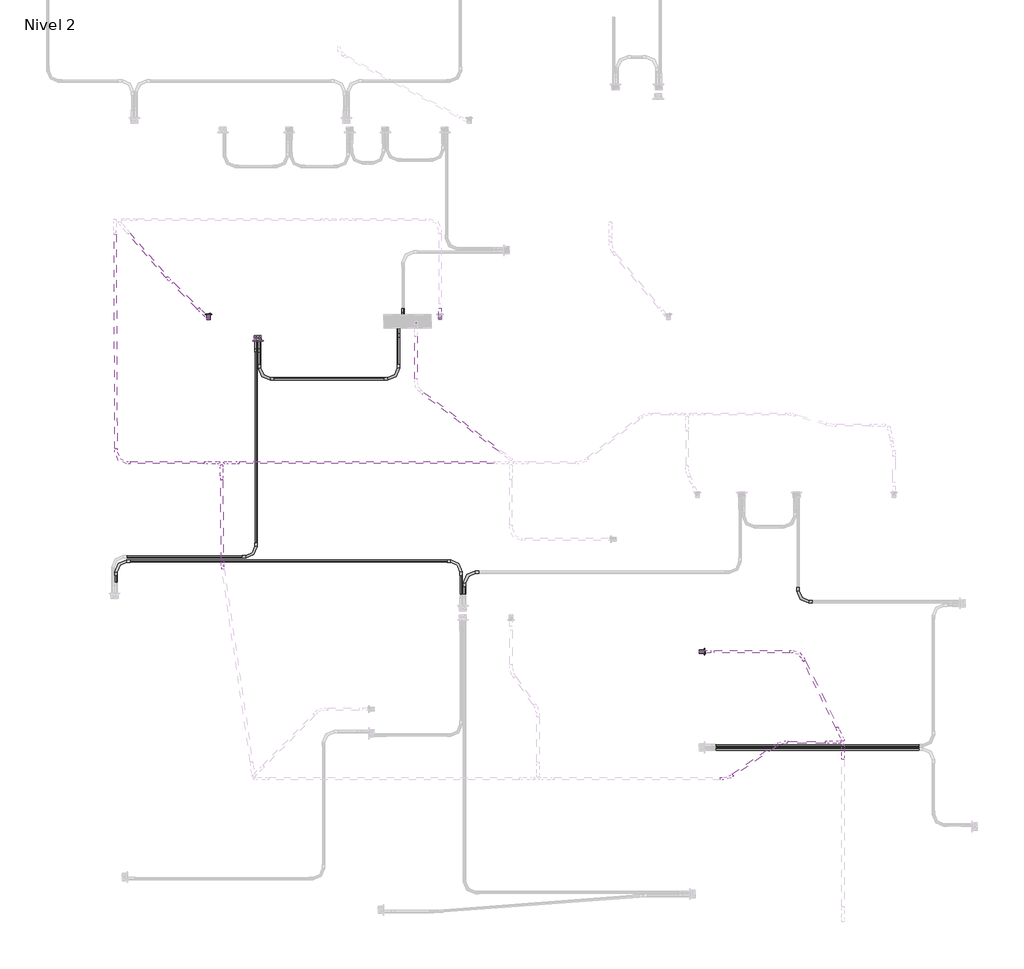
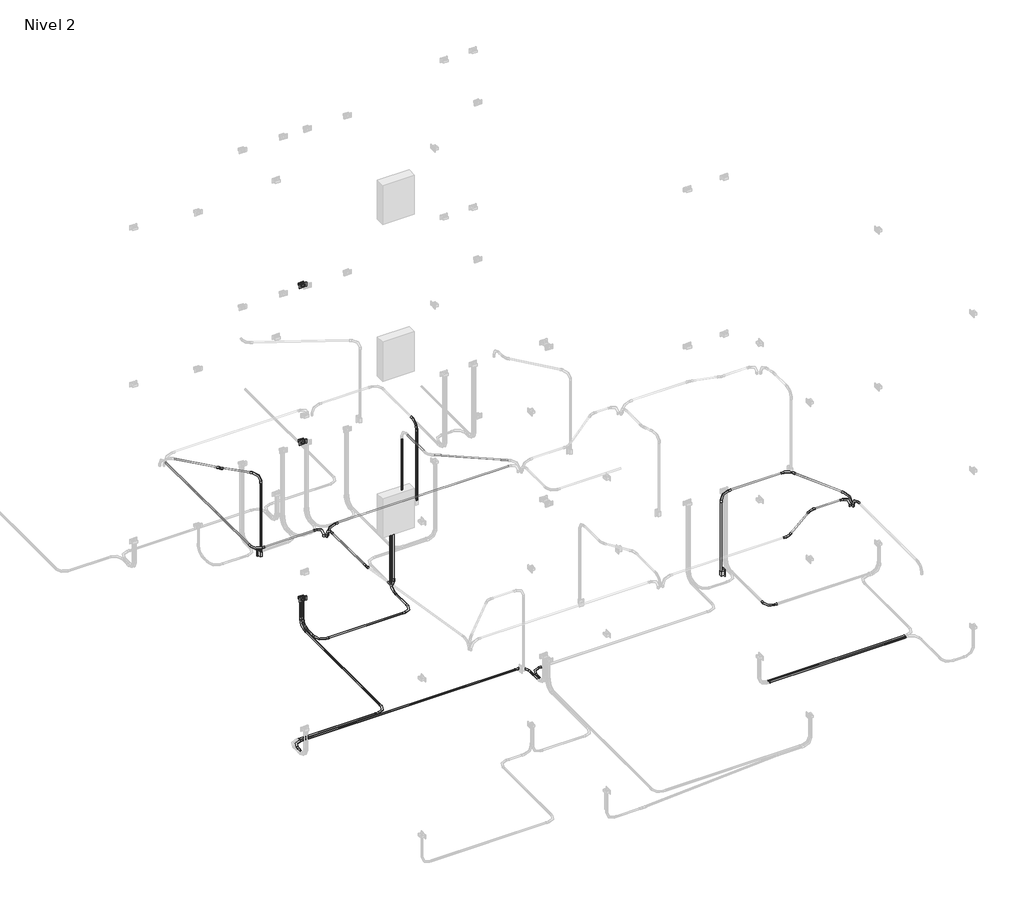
# One storey, part 3 of 10: 31 cable carrier segments, 26 cable carrier fittings, 3 proxies, 2 switching devices.
"""IFC4 building model written with IfcOpenShell, lengths in millimetres."""

from ifc_helpers import new_model, si_unit, point, frame, frame_2d, origin, place, context, project, spatial, circle_curve, trimmed, segment, composite_curve, outline, extrude, transform, mapped, element, save
from components import gfci_180f1b41, m_codo_de_tubo_extremo_liso_pvc_9da73e12, m_codo_de_tubo_extremo_liso_pvc_102f0f41, m_codo_de_tubo_extremo_liso_pvc_6d9fa8a7, m_codo_de_tubo_extremo_liso_pvc_f58f4af8, m_codo_de_tubo_extremo_liso_pvc_01dea03c, m_codo_de_tubo_extremo_liso_pvc_a375e3ab, m_codo_de_tubo_extremo_liso_pvc_6ad27ddb, switching_device_22fed34b

model = new_model("IFC4")

# Units and contexts
model_context = context("Model", 3, world=origin())
ifc_project = project(units=[si_unit("LENGTHUNIT", "METRE", prefix="MILLI")], contexts=[model_context])

# Site, building, storey
site = spatial("IfcSite", under=ifc_project)
building = spatial("IfcBuilding", under=site)
storey = spatial("IfcBuildingStorey", under=building, Name="Nivel 2", Elevation=2800.0)

# Proxies
placement = place(None, origin())
gfci_shape = gfci_180f1b41(model_context)
element("IfcBuildingElementProxy", 1, Name="Tomacorriente doble 220V : GFCI", ObjectType="Tomacorriente doble 220V : GFCI", at=placement, inside=storey, context=model_context, shape_type="MappedRepresentation", body=[
    mapped(gfci_shape, transform((1539.267068, 6735.0, 3200.0), x_axis=(0.0, 0.0, 1.0), y_axis=(-1.0, 0.0, 0.0), z_axis=(0.0, -1.0, 0.0))),
])
element("IfcBuildingElementProxy", 2, Name="Tomacorriente doble 220V : GFCI", ObjectType="Tomacorriente doble 220V : GFCI", at=placement, inside=storey, context=model_context, shape_type="MappedRepresentation", body=[
    mapped(gfci_shape, transform((1539.267068, 6735.0, 5850.0), x_axis=(0.0, 0.0, 1.0), y_axis=(-1.0, 0.0, 0.0), z_axis=(0.0, -1.0, 0.0))),
])
element("IfcBuildingElementProxy", 3, Name="Tomacorriente doble 220V : GFCI", ObjectType="Tomacorriente doble 220V : GFCI", at=placement, inside=storey, context=model_context, shape_type="MappedRepresentation", body=[
    mapped(gfci_shape, transform((1539.267068, 6735.0, 8500.0), x_axis=(0.0, 0.0, 1.0), y_axis=(-1.0, 0.0, 0.0), z_axis=(0.0, -1.0, 0.0))),
])

# Cable carrier fittings
m_codo_de_tubo_extremo_liso_pvc_shape = m_codo_de_tubo_extremo_liso_pvc_9da73e12(model_context)
element("IfcCableCarrierFitting", 4, ObjectType="M_Codo de tubo - Extremo liso - PVC : CODO POTENCIA", at=placement, inside=storey, context=model_context, shape_type="MappedRepresentation", body=[
    mapped(m_codo_de_tubo_extremo_liso_pvc_shape, transform((7343.1290455, 3929.8436623, 2730.0), x_axis=(0.0, -1.0, 0.0), y_axis=(1.0, 0.0, 0.0), z_axis=(0.0, 0.0, 1.0))),
])
element("IfcCableCarrierFitting", 5, ObjectType="M_Codo de tubo - Extremo liso - PVC : CODO POTENCIA", at=placement, inside=storey, context=model_context, shape_type="MappedRepresentation", body=[
    mapped(m_codo_de_tubo_extremo_liso_pvc_shape, transform((1557.2988878, 6764.6371118, 2730.0), x_axis=(0.0, 0.0, -1.0), y_axis=(0.0, -1.0, 0.0), z_axis=(-1.0, 0.0, 0.0))),
])
element("IfcCableCarrierFitting", 6, ObjectType="M_Codo de tubo - Extremo liso - PVC : CODO POTENCIA", at=placement, inside=storey, context=model_context, shape_type="MappedRepresentation", body=[
    mapped(m_codo_de_tubo_extremo_liso_pvc_shape, transform((1521.2352482, 6764.6371118, 2730.0), x_axis=(0.0, 0.0, -1.0), y_axis=(0.0, -1.0, 0.0), z_axis=(-1.0, 0.0, 0.0))),
])
element("IfcCableCarrierFitting", 7, ObjectType="M_Codo de tubo - Extremo liso - PVC : CODO POTENCIA", at=placement, inside=storey, context=model_context, shape_type="MappedRepresentation", body=[
    mapped(m_codo_de_tubo_extremo_liso_pvc_shape, transform((1521.2352482, 4410.0, 2730.0), x_axis=(1.0, 0.0, 0.0), y_axis=(0.0, 1.0, 0.0), z_axis=(0.0, 0.0, 1.0))),
])
element("IfcCableCarrierFitting", 8, ObjectType="M_Codo de tubo - Extremo liso - PVC : CODO POTENCIA", at=placement, inside=storey, context=model_context, shape_type="MappedRepresentation", body=[
    mapped(m_codo_de_tubo_extremo_liso_pvc_shape, transform((1557.2988878, 6324.6371118, 2730.0), x_axis=(0.0, -1.0, 0.0), y_axis=(1.0, 0.0, 0.0), z_axis=(0.0, 0.0, 1.0))),
])
element("IfcCableCarrierFitting", 9, ObjectType="M_Codo de tubo - Extremo liso - PVC : CODO POTENCIA", at=placement, inside=storey, context=model_context, shape_type="MappedRepresentation", body=[
    mapped(m_codo_de_tubo_extremo_liso_pvc_shape, transform((3049.7988878, 6324.6371118, 2730.0), x_axis=(1.0, 0.0, 0.0), y_axis=(0.0, 1.0, 0.0), z_axis=(0.0, 0.0, 1.0))),
])
element("IfcCableCarrierFitting", 10, ObjectType="M_Codo de tubo - Extremo liso - PVC : CODO POTENCIA", at=placement, inside=storey, context=model_context, shape_type="MappedRepresentation", body=[
    mapped(m_codo_de_tubo_extremo_liso_pvc_shape, transform((3723.3033726, 4365.3628882, 2730.0), x_axis=(0.0, 1.0, 0.0), y_axis=(-1.0, 0.0, 0.0), z_axis=(0.0, 0.0, 1.0))),
])
element("IfcCableCarrierFitting", 11, ObjectType="M_Codo de tubo - Extremo liso - PVC : CODO POTENCIA", at=placement, inside=storey, context=model_context, shape_type="MappedRepresentation", body=[
    mapped(m_codo_de_tubo_extremo_liso_pvc_shape, transform((17.0761068, 4365.3628882, 2730.0), x_axis=(-1.0, 0.0, 0.0), y_axis=(0.0, -1.0, 0.0), z_axis=(0.0, 0.0, 1.0))),
])
element("IfcCableCarrierFitting", 12, ObjectType="M_Codo de tubo - Extremo liso - PVC : CODO POTENCIA", at=placement, inside=storey, context=model_context, shape_type="MappedRepresentation", body=[
    mapped(m_codo_de_tubo_extremo_liso_pvc_shape, transform((3759.3670122, 4245.3628882, 2730.0), x_axis=(-1.0, 0.0, 0.0), y_axis=(0.0, -1.0, 0.0), z_axis=(0.0, 0.0, 1.0))),
])
element("IfcCableCarrierFitting", 13, ObjectType="M_Codo de tubo - Extremo liso - PVC : CODO POTENCIA", at=placement, inside=storey, context=model_context, shape_type="MappedRepresentation", body=[
    mapped(m_codo_de_tubo_extremo_liso_pvc_shape, transform((3099.8874089, 6924.6371118, 2730.0), x_axis=(0.0, -1.0, 0.0), y_axis=(0.0, 0.0, 1.0), z_axis=(-1.0, 0.0, 0.0))),
])
element("IfcCableCarrierFitting", 14, ObjectType="M_Codo de tubo - Extremo liso - PVC : CODO POTENCIA", at=placement, inside=storey, context=model_context, shape_type="MappedRepresentation", body=[
    mapped(m_codo_de_tubo_extremo_liso_pvc_shape, transform((3049.7988878, 6924.6371118, 2730.0), x_axis=(0.0, 1.0, 0.0), y_axis=(0.0, 0.0, 1.0), z_axis=(1.0, 0.0, 0.0))),
])
element("IfcCableCarrierFitting", 15, ObjectType="M_Codo de tubo - Extremo liso - PVC : CODO ILUMINACION", at=placement, inside=storey, context=model_context, shape_type="MappedRepresentation", body=[
    mapped(m_codo_de_tubo_extremo_liso_pvc_shape, transform((1185.6193562, 5423.1835713, 5350.0), x_axis=(-1.0, 0.0, 0.0), y_axis=(0.0, 0.0, -1.0), z_axis=(0.0, -1.0, 0.0))),
])
element("IfcCableCarrierFitting", 16, ObjectType="M_Codo de tubo - Extremo liso - PVC : CODO ILUMINACION", at=placement, inside=storey, context=model_context, shape_type="MappedRepresentation", body=[
    mapped(m_codo_de_tubo_extremo_liso_pvc_shape, transform((7824.8834206, 2385.5078358, 5350.0), x_axis=(0.0, 1.0, 0.0), y_axis=(0.0, 0.0, -1.0), z_axis=(-1.0, 0.0, 0.0))),
])
element("IfcCableCarrierFitting", 17, ObjectType="M_Codo de tubo - Extremo liso - PVC : CODO ILUMINACION", at=placement, inside=storey, context=model_context, shape_type="MappedRepresentation", body=[
    mapped(m_codo_de_tubo_extremo_liso_pvc_shape, transform((7824.7093209, 2441.4349493, 5350.0), x_axis=(0.4383711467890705, -0.8987940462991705, 0.0), y_axis=(0.0, 0.0, -1.0000000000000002), z_axis=(0.8987940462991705, 0.4383711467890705, 0.0))),
])
element("IfcCableCarrierFitting", 18, ObjectType="M_Codo de tubo - Extremo liso - PVC : CODO ILUMINACION", at=placement, inside=storey, context=model_context, shape_type="MappedRepresentation", body=[
    mapped(m_codo_de_tubo_extremo_liso_pvc_shape, transform((6291.8611243, 3390.4963891, 5350.0), x_axis=(0.0, 0.0, 1.0), y_axis=(1.0, 0.0, 0.0), z_axis=(0.0, 1.0, 0.0))),
])
element("IfcCableCarrierFitting", 19, ObjectType="M_Codo de tubo - Extremo liso - PVC : CODO ILUMINACION", at=placement, inside=storey, context=model_context, shape_type="MappedRepresentation", body=[
    mapped(m_codo_de_tubo_extremo_liso_pvc_shape, transform((3497.5007971, 6971.8611243, 5350.0), x_axis=(0.0, 0.0, 1.0), y_axis=(0.0, 1.0, 0.0), z_axis=(-1.0, 0.0, 0.0))),
])
element("IfcCableCarrierFitting", 20, ObjectType="M_Codo de tubo - Extremo liso - PVC : CODO ILUMINACION", at=placement, inside=storey, context=model_context, shape_type="MappedRepresentation", body=[
    mapped(m_codo_de_tubo_extremo_liso_pvc_shape, transform((1007.1275387, 6971.8611243, 5350.0), x_axis=(0.0, 0.0, 1.0), y_axis=(-0.7107309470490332, 0.7034639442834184, 0.0), z_axis=(-0.7034639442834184, -0.7107309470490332, 0.0))),
])
element("IfcCableCarrierFitting", 21, ObjectType="M_Codo de tubo - Extremo liso - PVC : CODO ILUMINACION", at=placement, inside=storey, context=model_context, shape_type="MappedRepresentation", body=[
    mapped(m_codo_de_tubo_extremo_liso_pvc_shape, transform((1149.6596259, 5391.3585606, 5350.0), x_axis=(-0.007684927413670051, 0.999970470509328, 0.0), y_axis=(0.0, 0.0, -1.0000000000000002), z_axis=(-0.999970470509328, -0.007684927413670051, 0.0))),
])
m_codo_de_tubo_extremo_liso_pvc_2_shape = m_codo_de_tubo_extremo_liso_pvc_102f0f41(model_context)
element("IfcCableCarrierFitting", 22, ObjectType="M_Codo de tubo - Extremo liso - PVC : CODO ILUMINACION", at=placement, inside=storey, context=model_context, shape_type="MappedRepresentation", body=[
    mapped(m_codo_de_tubo_extremo_liso_pvc_2_shape, transform((1117.5890953, 5423.1835713, 5350.0), x_axis=(1.0, 0.0, 0.0), y_axis=(0.0, 0.0, 1.0), z_axis=(0.0, -1.0, 0.0))),
])
element("IfcCableCarrierFitting", 23, ObjectType="M_Codo de tubo - Extremo liso - PVC : CODO ILUMINACION", at=placement, inside=storey, context=model_context, shape_type="MappedRepresentation", body=[
    mapped(m_codo_de_tubo_extremo_liso_pvc_2_shape, transform((7788.6622212, 2417.3168974, 5350.0), x_axis=(1.0, 0.0, 0.0), y_axis=(0.0, 0.0, 1.0), z_axis=(0.0, -1.0, 0.0))),
])
m_codo_de_tubo_extremo_liso_pvc_3_shape = m_codo_de_tubo_extremo_liso_pvc_6d9fa8a7(model_context)
element("IfcCableCarrierFitting", 24, ObjectType="M_Codo de tubo - Extremo liso - PVC : CODO ILUMINACION", at=placement, inside=storey, context=model_context, shape_type="MappedRepresentation", body=[
    mapped(m_codo_de_tubo_extremo_liso_pvc_3_shape, transform((6581.2526659, 2026.1291573, 5350.0), x_axis=(1.0, 0.0, 0.0), y_axis=(0.0, 1.0, 0.0), z_axis=(0.0, 0.0, 1.0))),
])
element("IfcCableCarrierFitting", 25, ObjectType="M_Codo de tubo - Extremo liso - PVC : CODO ILUMINACION", at=placement, inside=storey, context=model_context, shape_type="MappedRepresentation", body=[
    mapped(m_codo_de_tubo_extremo_liso_pvc_3_shape, transform((7156.2622212, 2417.3168974, 5350.0), x_axis=(-1.0, 0.0, 0.0), y_axis=(0.0, -1.0, 0.0), z_axis=(0.0, 0.0, 1.0))),
])
m_codo_de_tubo_extremo_liso_pvc_4_shape = m_codo_de_tubo_extremo_liso_pvc_f58f4af8(model_context)
element("IfcCableCarrierFitting", 26, ObjectType="M_Codo de tubo - Extremo liso - PVC : CODO ILUMINACION", at=placement, inside=storey, context=model_context, shape_type="MappedRepresentation", body=[
    mapped(m_codo_de_tubo_extremo_liso_pvc_4_shape, transform((7361.8211281, 3390.4963891, 5350.0), x_axis=(-0.4383711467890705, 0.8987940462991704, 0.0), y_axis=(-0.8987940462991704, -0.4383711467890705, 0.0), z_axis=(0.0, 0.0, 1.0))),
])
m_codo_de_tubo_extremo_liso_pvc_5_shape = m_codo_de_tubo_extremo_liso_pvc_01dea03c(model_context)
element("IfcCableCarrierFitting", 27, ObjectType="M_Codo de tubo - Extremo liso - PVC : CODO ILUMINACION", at=placement, inside=storey, context=model_context, shape_type="MappedRepresentation", body=[
    mapped(m_codo_de_tubo_extremo_liso_pvc_5_shape, transform((590.9641731, 7383.7693491, 5350.0), x_axis=(0.656059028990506, -0.7547095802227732, 0.0), y_axis=(0.7547095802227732, 0.656059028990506, 0.0), z_axis=(0.0, 0.0, 1.0))),
])
m_codo_de_tubo_extremo_liso_pvc_6_shape = m_codo_de_tubo_extremo_liso_pvc_a375e3ab(model_context)
element("IfcCableCarrierFitting", 28, ObjectType="M_Codo de tubo - Extremo liso - PVC : CODO ILUMINACION", at=placement, inside=storey, context=model_context, shape_type="MappedRepresentation", body=[
    mapped(m_codo_de_tubo_extremo_liso_pvc_6_shape, transform((16.4105658, 5423.1835713, 5350.0), x_axis=(0.004558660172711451, -0.9999896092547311, 0.0), y_axis=(0.9999896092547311, 0.004558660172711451, 0.0), z_axis=(0.0, 0.0, 1.0))),
])
m_codo_de_tubo_extremo_liso_pvc_7_shape = m_codo_de_tubo_extremo_liso_pvc_6ad27ddb(model_context)
element("IfcCableCarrierFitting", 29, ObjectType="M_Codo de tubo - Extremo liso - PVC : CODO ILUMINACION", at=placement, inside=storey, context=model_context, shape_type="MappedRepresentation", body=[
    mapped(m_codo_de_tubo_extremo_liso_pvc_7_shape, transform((1157.8468904, 4326.0234866, 5350.0), x_axis=(0.007684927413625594, -0.9999704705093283, 0.0), y_axis=(0.9999704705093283, 0.007684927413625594, 0.0), z_axis=(0.0, 0.0, 1.0))),
])

# Cable carrier segments
element("IfcCableCarrierSegment", 30, ObjectType="PVC-SEL, POTENCIA", at=placement, inside=storey, context=model_context, shape_type="SweptSolid", body=[
    extrude(outline(composite_curve([segment(trimmed(circle_curve(frame_2d((2344.5282763, 2730.0)), 11.71), [point((2332.8182763, 2730.0))], [point((2344.5282763, 2741.71))], False, "CARTESIAN"), True, "CONTINUOUS"), segment(trimmed(circle_curve(frame_2d((2344.5282763, 2730.0)), 11.71), [point((2344.5282763, 2741.71))], [point((2356.2382763, 2730.0))], False, "CARTESIAN"), True, "CONTINUOUS"), segment(trimmed(circle_curve(frame_2d((2344.5282763, 2730.0)), 11.71), [point((2356.2382763, 2730.0))], [point((2344.5282763, 2718.29))], False, "CARTESIAN"), True, "CONTINUOUS"), segment(trimmed(circle_curve(frame_2d((2344.5282763, 2730.0)), 11.71), [point((2344.5282763, 2718.29))], [point((2332.8182763, 2730.0))], False, "CARTESIAN"), True, "CONTINUOUS")], self_intersect=False)), frame((6457.7628882, 0.0, 0.0), z_axis=(1.0, 0.0, 0.0), x_axis=(0.0, 1.0, 0.0)), (0.0, 0.0, 1.0), 2184.4742236),
])
element("IfcCableCarrierSegment", 31, ObjectType="PVC-SEL, POTENCIA", at=placement, inside=storey, context=model_context, shape_type="SweptSolid", body=[
    extrude(outline(composite_curve([segment(trimmed(circle_curve(frame_2d((2380.5919159, 2730.0)), 11.71), [point((2392.3019159, 2730.0))], [point((2380.5919159, 2718.29))], False, "CARTESIAN"), True, "CONTINUOUS"), segment(trimmed(circle_curve(frame_2d((2380.5919159, 2730.0)), 11.71), [point((2380.5919159, 2718.29))], [point((2368.8819159, 2730.0))], False, "CARTESIAN"), True, "CONTINUOUS"), segment(trimmed(circle_curve(frame_2d((2380.5919159, 2730.0)), 11.71), [point((2368.8819159, 2730.0))], [point((2380.5919159, 2741.71))], False, "CARTESIAN"), True, "CONTINUOUS"), segment(trimmed(circle_curve(frame_2d((2380.5919159, 2730.0)), 11.71), [point((2380.5919159, 2741.71))], [point((2392.3019159, 2730.0))], False, "CARTESIAN"), True, "CONTINUOUS")], self_intersect=False)), frame((6457.7628882, 0.0, 0.0), z_axis=(1.0, 0.0, 0.0), x_axis=(0.0, 1.0, 0.0)), (0.0, 0.0, 1.0), 2184.4742236),
])
element("IfcCableCarrierSegment", 32, ObjectType="PVC-SEL, POTENCIA", at=placement, inside=storey, context=model_context, shape_type="SweptSolid", body=[
    extrude(outline(composite_curve([segment(trimmed(circle_curve(frame_2d((2730.0, 1557.2988878)), 11.71), [point((2730.0, 1545.5888878))], [point((2718.29, 1557.2988878))], False, "CARTESIAN"), True, "CONTINUOUS"), segment(trimmed(circle_curve(frame_2d((2730.0, 1557.2988878)), 11.71), [point((2718.29, 1557.2988878))], [point((2730.0, 1569.0088878))], False, "CARTESIAN"), True, "CONTINUOUS"), segment(trimmed(circle_curve(frame_2d((2730.0, 1557.2988878)), 11.71), [point((2730.0, 1569.0088878))], [point((2741.71, 1557.2988878))], False, "CARTESIAN"), True, "CONTINUOUS"), segment(trimmed(circle_curve(frame_2d((2730.0, 1557.2988878)), 11.71), [point((2741.71, 1557.2988878))], [point((2730.0, 1545.5888878))], False, "CARTESIAN"), True, "CONTINUOUS")], self_intersect=False)), frame((0.0, 6477.0371118, 0.0), z_axis=(0.0, 1.0, 0.0), x_axis=(0.0, 0.0, 1.0)), (0.0, 0.0, 1.0), 135.2),
])
element("IfcCableCarrierSegment", 33, ObjectType="PVC-SEL, POTENCIA", at=placement, inside=storey, context=model_context, shape_type="SweptSolid", body=[
    extrude(outline(composite_curve([segment(trimmed(circle_curve(frame_2d((1557.2988878, 6764.6371118)), 11.71), [point((1569.0088878, 6764.6371118))], [point((1557.2988878, 6752.9271118))], False, "CARTESIAN"), True, "CONTINUOUS"), segment(trimmed(circle_curve(frame_2d((1557.2988878, 6764.6371118)), 11.71), [point((1557.2988878, 6752.9271118))], [point((1545.5888878, 6764.6371118))], False, "CARTESIAN"), True, "CONTINUOUS"), segment(trimmed(circle_curve(frame_2d((1557.2988878, 6764.6371118)), 11.71), [point((1545.5888878, 6764.6371118))], [point((1557.2988878, 6776.3471118))], False, "CARTESIAN"), True, "CONTINUOUS"), segment(trimmed(circle_curve(frame_2d((1557.2988878, 6764.6371118)), 11.71), [point((1557.2988878, 6776.3471118))], [point((1569.0088878, 6764.6371118))], False, "CARTESIAN"), True, "CONTINUOUS")], self_intersect=False)), frame((0.0, 0.0, 2882.4), z_axis=(0.0, 0.0, 1.0), x_axis=(1.0, 0.0, 0.0)), (0.0, 0.0, 1.0), 297.3020537),
])
element("IfcCableCarrierSegment", 34, ObjectType="PVC-SEL, POTENCIA", at=placement, inside=storey, context=model_context, shape_type="SweptSolid", body=[
    extrude(outline(composite_curve([segment(trimmed(circle_curve(frame_2d((2730.0, 1521.2352482)), 11.71), [point((2730.0, 1509.5252482))], [point((2718.29, 1521.2352482))], False, "CARTESIAN"), True, "CONTINUOUS"), segment(trimmed(circle_curve(frame_2d((2730.0, 1521.2352482)), 11.71), [point((2718.29, 1521.2352482))], [point((2730.0, 1532.9452482))], False, "CARTESIAN"), True, "CONTINUOUS"), segment(trimmed(circle_curve(frame_2d((2730.0, 1521.2352482)), 11.71), [point((2730.0, 1532.9452482))], [point((2741.71, 1521.2352482))], False, "CARTESIAN"), True, "CONTINUOUS"), segment(trimmed(circle_curve(frame_2d((2730.0, 1521.2352482)), 11.71), [point((2741.71, 1521.2352482))], [point((2730.0, 1509.5252482))], False, "CARTESIAN"), True, "CONTINUOUS")], self_intersect=False)), frame((0.0, 4562.4, 0.0), z_axis=(0.0, 1.0, 0.0), x_axis=(0.0, 0.0, 1.0)), (0.0, 0.0, 1.0), 2049.8371118),
])
element("IfcCableCarrierSegment", 35, ObjectType="PVC-SEL, POTENCIA", at=placement, inside=storey, context=model_context, shape_type="SweptSolid", body=[
    extrude(outline(composite_curve([segment(trimmed(circle_curve(frame_2d((1521.2352482, 6764.6371118)), 11.71), [point((1532.9452482, 6764.6371118))], [point((1521.2352482, 6752.9271118))], False, "CARTESIAN"), True, "CONTINUOUS"), segment(trimmed(circle_curve(frame_2d((1521.2352482, 6764.6371118)), 11.71), [point((1521.2352482, 6752.9271118))], [point((1509.5252482, 6764.6371118))], False, "CARTESIAN"), True, "CONTINUOUS"), segment(trimmed(circle_curve(frame_2d((1521.2352482, 6764.6371118)), 11.71), [point((1509.5252482, 6764.6371118))], [point((1521.2352482, 6776.3471118))], False, "CARTESIAN"), True, "CONTINUOUS"), segment(trimmed(circle_curve(frame_2d((1521.2352482, 6764.6371118)), 11.71), [point((1521.2352482, 6776.3471118))], [point((1532.9452482, 6764.6371118))], False, "CARTESIAN"), True, "CONTINUOUS")], self_intersect=False)), frame((0.0, 0.0, 2882.4), z_axis=(0.0, 0.0, 1.0), x_axis=(1.0, 0.0, 0.0)), (0.0, 0.0, 1.0), 297.3020537),
])
element("IfcCableCarrierSegment", 36, ObjectType="PVC-SEL, POTENCIA", at=placement, inside=storey, context=model_context, shape_type="SweptSolid", body=[
    extrude(outline(composite_curve([segment(trimmed(circle_curve(frame_2d((2730.0, 17.0761068)), 11.71), [point((2730.0, 28.7861068))], [point((2741.71, 17.0761068))], False, "CARTESIAN"), True, "CONTINUOUS"), segment(trimmed(circle_curve(frame_2d((2730.0, 17.0761068)), 11.71), [point((2741.71, 17.0761068))], [point((2730.0, 5.3661068))], False, "CARTESIAN"), True, "CONTINUOUS"), segment(trimmed(circle_curve(frame_2d((2730.0, 17.0761068)), 11.71), [point((2730.0, 5.3661068))], [point((2718.29, 17.0761068))], False, "CARTESIAN"), True, "CONTINUOUS"), segment(trimmed(circle_curve(frame_2d((2730.0, 17.0761068)), 11.71), [point((2718.29, 17.0761068))], [point((2730.0, 28.7861068))], False, "CARTESIAN"), True, "CONTINUOUS")], self_intersect=False)), frame((0.0, 4137.7628882, 0.0), z_axis=(0.0, 1.0, 0.0), x_axis=(0.0, 0.0, 1.0)), (0.0, 0.0, 1.0), 75.2),
])
element("IfcCableCarrierSegment", 37, ObjectType="PVC-SEL, POTENCIA", at=placement, inside=storey, context=model_context, shape_type="SweptSolid", body=[
    extrude(outline(composite_curve([segment(trimmed(circle_curve(frame_2d((2730.0, 3759.3670122)), 11.71), [point((2730.0, 3771.0770122))], [point((2741.71, 3759.3670122))], False, "CARTESIAN"), True, "CONTINUOUS"), segment(trimmed(circle_curve(frame_2d((2730.0, 3759.3670122)), 11.71), [point((2741.71, 3759.3670122))], [point((2730.0, 3747.6570122))], False, "CARTESIAN"), True, "CONTINUOUS"), segment(trimmed(circle_curve(frame_2d((2730.0, 3759.3670122)), 11.71), [point((2730.0, 3747.6570122))], [point((2718.29, 3759.3670122))], False, "CARTESIAN"), True, "CONTINUOUS"), segment(trimmed(circle_curve(frame_2d((2730.0, 3759.3670122)), 11.71), [point((2718.29, 3759.3670122))], [point((2730.0, 3771.0770122))], False, "CARTESIAN"), True, "CONTINUOUS")], self_intersect=False)), frame((0.0, 4007.7628882, 0.0), z_axis=(0.0, 1.0, 0.0), x_axis=(0.0, 0.0, 1.0)), (0.0, 0.0, 1.0), 85.2),
])
element("IfcCableCarrierSegment", 38, ObjectType="PVC-SEL, POTENCIA", at=placement, inside=storey, context=model_context, shape_type="SweptSolid", body=[
    extrude(outline(composite_curve([segment(trimmed(circle_curve(frame_2d((2730.0, 3723.3033726)), 11.71), [point((2730.0, 3735.0133726))], [point((2741.71, 3723.3033726))], False, "CARTESIAN"), True, "CONTINUOUS"), segment(trimmed(circle_curve(frame_2d((2730.0, 3723.3033726)), 11.71), [point((2741.71, 3723.3033726))], [point((2730.0, 3711.5933726))], False, "CARTESIAN"), True, "CONTINUOUS"), segment(trimmed(circle_curve(frame_2d((2730.0, 3723.3033726)), 11.71), [point((2730.0, 3711.5933726))], [point((2718.29, 3723.3033726))], False, "CARTESIAN"), True, "CONTINUOUS"), segment(trimmed(circle_curve(frame_2d((2730.0, 3723.3033726)), 11.71), [point((2718.29, 3723.3033726))], [point((2730.0, 3735.0133726))], False, "CARTESIAN"), True, "CONTINUOUS")], self_intersect=False)), frame((0.0, 4007.7628882, 0.0), z_axis=(0.0, 1.0, 0.0), x_axis=(0.0, 0.0, 1.0)), (0.0, 0.0, 1.0), 205.2),
])
element("IfcCableCarrierSegment", 39, ObjectType="PVC-SEL, POTENCIA", at=placement, inside=storey, context=model_context, shape_type="SweptSolid", body=[
    extrude(outline(composite_curve([segment(trimmed(circle_curve(frame_2d((4410.0, 2730.0)), 11.71), [point((4421.71, 2730.0))], [point((4410.0, 2718.29))], False, "CARTESIAN"), True, "CONTINUOUS"), segment(trimmed(circle_curve(frame_2d((4410.0, 2730.0)), 11.71), [point((4410.0, 2718.29))], [point((4398.29, 2730.0))], False, "CARTESIAN"), True, "CONTINUOUS"), segment(trimmed(circle_curve(frame_2d((4410.0, 2730.0)), 11.71), [point((4398.29, 2730.0))], [point((4410.0, 2741.71))], False, "CARTESIAN"), True, "CONTINUOUS"), segment(trimmed(circle_curve(frame_2d((4410.0, 2730.0)), 11.71), [point((4410.0, 2741.71))], [point((4421.71, 2730.0))], False, "CARTESIAN"), True, "CONTINUOUS")], self_intersect=False)), frame((133.4124672, 0.0, 0.0), z_axis=(1.0, 0.0, 0.0), x_axis=(0.0, 1.0, 0.0)), (0.0, 0.0, 1.0), 1235.422781),
])
element("IfcCableCarrierSegment", 40, ObjectType="PVC-SEL, POTENCIA", at=placement, inside=storey, context=model_context, shape_type="SweptSolid", body=[
    extrude(outline(composite_curve([segment(trimmed(circle_curve(frame_2d((6324.6371118, 2730.0)), 11.71), [point((6312.9271118, 2730.0))], [point((6324.6371118, 2741.71))], False, "CARTESIAN"), True, "CONTINUOUS"), segment(trimmed(circle_curve(frame_2d((6324.6371118, 2730.0)), 11.71), [point((6324.6371118, 2741.71))], [point((6336.3471118, 2730.0))], False, "CARTESIAN"), True, "CONTINUOUS"), segment(trimmed(circle_curve(frame_2d((6324.6371118, 2730.0)), 11.71), [point((6336.3471118, 2730.0))], [point((6324.6371118, 2718.29))], False, "CARTESIAN"), True, "CONTINUOUS"), segment(trimmed(circle_curve(frame_2d((6324.6371118, 2730.0)), 11.71), [point((6324.6371118, 2718.29))], [point((6312.9271118, 2730.0))], False, "CARTESIAN"), True, "CONTINUOUS")], self_intersect=False)), frame((1709.6988878, 0.0, 0.0), z_axis=(1.0, 0.0, 0.0), x_axis=(0.0, 1.0, 0.0)), (0.0, 0.0, 1.0), 1187.7),
])
element("IfcCableCarrierSegment", 41, ObjectType="PVC-SEL, POTENCIA", at=placement, inside=storey, context=model_context, shape_type="SweptSolid", body=[
    extrude(outline(composite_curve([segment(trimmed(circle_curve(frame_2d((2730.0, 3049.7988878)), 11.71), [point((2730.0, 3061.5088878))], [point((2741.71, 3049.7988878))], False, "CARTESIAN"), True, "CONTINUOUS"), segment(trimmed(circle_curve(frame_2d((2730.0, 3049.7988878)), 11.71), [point((2741.71, 3049.7988878))], [point((2730.0, 3038.0888878))], False, "CARTESIAN"), True, "CONTINUOUS"), segment(trimmed(circle_curve(frame_2d((2730.0, 3049.7988878)), 11.71), [point((2730.0, 3038.0888878))], [point((2718.29, 3049.7988878))], False, "CARTESIAN"), True, "CONTINUOUS"), segment(trimmed(circle_curve(frame_2d((2730.0, 3049.7988878)), 11.71), [point((2718.29, 3049.7988878))], [point((2730.0, 3061.5088878))], False, "CARTESIAN"), True, "CONTINUOUS")], self_intersect=False)), frame((0.0, 6477.0371118, 0.0), z_axis=(0.0, 1.0, 0.0), x_axis=(0.0, 0.0, 1.0)), (0.0, 0.0, 1.0), 295.2),
])
element("IfcCableCarrierSegment", 42, ObjectType="PVC-SEL, POTENCIA", at=placement, inside=storey, context=model_context, shape_type="SweptSolid", body=[
    extrude(outline(composite_curve([segment(trimmed(circle_curve(frame_2d((4365.3628882, 2730.0)), 11.71), [point((4377.0728882, 2730.0))], [point((4365.3628882, 2718.29))], False, "CARTESIAN"), True, "CONTINUOUS"), segment(trimmed(circle_curve(frame_2d((4365.3628882, 2730.0)), 11.71), [point((4365.3628882, 2718.29))], [point((4353.6528882, 2730.0))], False, "CARTESIAN"), True, "CONTINUOUS"), segment(trimmed(circle_curve(frame_2d((4365.3628882, 2730.0)), 11.71), [point((4353.6528882, 2730.0))], [point((4365.3628882, 2741.71))], False, "CARTESIAN"), True, "CONTINUOUS"), segment(trimmed(circle_curve(frame_2d((4365.3628882, 2730.0)), 11.71), [point((4365.3628882, 2741.71))], [point((4377.0728882, 2730.0))], False, "CARTESIAN"), True, "CONTINUOUS")], self_intersect=False)), frame((169.4761068, 0.0, 0.0), z_axis=(1.0, 0.0, 0.0), x_axis=(0.0, 1.0, 0.0)), (0.0, 0.0, 1.0), 3401.4272658),
])
element("IfcCableCarrierSegment", 43, ObjectType="PVC-SEL, POTENCIA", at=placement, inside=storey, context=model_context, shape_type="SweptSolid", body=[
    extrude(outline(composite_curve([segment(trimmed(circle_curve(frame_2d((3099.8874089, 6924.6371118)), 11.71), [point((3088.1774089, 6924.6371118))], [point((3099.8874089, 6936.3471118))], False, "CARTESIAN"), True, "CONTINUOUS"), segment(trimmed(circle_curve(frame_2d((3099.8874089, 6924.6371118)), 11.71), [point((3099.8874089, 6936.3471118))], [point((3111.5974089, 6924.6371118))], False, "CARTESIAN"), True, "CONTINUOUS"), segment(trimmed(circle_curve(frame_2d((3099.8874089, 6924.6371118)), 11.71), [point((3111.5974089, 6924.6371118))], [point((3099.8874089, 6912.9271118))], False, "CARTESIAN"), True, "CONTINUOUS"), segment(trimmed(circle_curve(frame_2d((3099.8874089, 6924.6371118)), 11.71), [point((3099.8874089, 6912.9271118))], [point((3088.1774089, 6924.6371118))], False, "CARTESIAN"), True, "CONTINUOUS")], self_intersect=False)), frame((0.0, 0.0, 2882.4), z_axis=(0.0, 0.0, 1.0), x_axis=(1.0, 0.0, 0.0)), (0.0, 0.0, 1.0), 817.6),
])
element("IfcCableCarrierSegment", 44, ObjectType="PVC-SEL, POTENCIA", at=placement, inside=storey, context=model_context, shape_type="SweptSolid", body=[
    extrude(outline(composite_curve([segment(trimmed(circle_curve(frame_2d((3049.7988878, 6924.6371118)), 11.71), [point((3038.0888878, 6924.6371118))], [point((3049.7988878, 6936.3471118))], False, "CARTESIAN"), True, "CONTINUOUS"), segment(trimmed(circle_curve(frame_2d((3049.7988878, 6924.6371118)), 11.71), [point((3049.7988878, 6936.3471118))], [point((3061.5088878, 6924.6371118))], False, "CARTESIAN"), True, "CONTINUOUS"), segment(trimmed(circle_curve(frame_2d((3049.7988878, 6924.6371118)), 11.71), [point((3061.5088878, 6924.6371118))], [point((3049.7988878, 6912.9271118))], False, "CARTESIAN"), True, "CONTINUOUS"), segment(trimmed(circle_curve(frame_2d((3049.7988878, 6924.6371118)), 11.71), [point((3049.7988878, 6912.9271118))], [point((3038.0888878, 6924.6371118))], False, "CARTESIAN"), True, "CONTINUOUS")], self_intersect=False)), frame((0.0, 0.0, 2882.4), z_axis=(0.0, 0.0, 1.0), x_axis=(1.0, 0.0, 0.0)), (0.0, 0.0, 1.0), 817.6),
])
element("IfcCableCarrierSegment", 45, ObjectType="PVC-SEL ILUMINACION", at=placement, inside=storey, context=model_context, shape_type="SweptSolid", body=[
    extrude(outline(composite_curve([segment(trimmed(circle_curve(frame_2d((5423.1835713, 5350.0)), 11.71), [point((5434.8935713, 5350.0))], [point((5423.1835713, 5338.29))], False, "CARTESIAN"), True, "CONTINUOUS"), segment(trimmed(circle_curve(frame_2d((5423.1835713, 5350.0)), 11.71), [point((5423.1835713, 5338.29))], [point((5411.4735713, 5350.0))], False, "CARTESIAN"), True, "CONTINUOUS"), segment(trimmed(circle_curve(frame_2d((5423.1835713, 5350.0)), 11.71), [point((5411.4735713, 5350.0))], [point((5423.1835713, 5361.71))], False, "CARTESIAN"), True, "CONTINUOUS"), segment(trimmed(circle_curve(frame_2d((5423.1835713, 5350.0)), 11.71), [point((5423.1835713, 5361.71))], [point((5434.8935713, 5350.0))], False, "CARTESIAN"), True, "CONTINUOUS")], self_intersect=False)), frame((1338.0193562, 0.0, 0.0), z_axis=(1.0, 0.0, 0.0), x_axis=(0.0, 1.0, 0.0)), (0.0, 0.0, 1.0), 2734.8907993),
])
element("IfcCableCarrierSegment", 46, ObjectType="PVC-SEL ILUMINACION", at=placement, inside=storey, context=model_context, shape_type="SweptSolid", body=[
    extrude(outline(composite_curve([segment(trimmed(circle_curve(frame_2d((2417.3168974, 5350.0)), 11.71), [point((2429.0268974, 5350.0))], [point((2417.3168974, 5338.29))], False, "CARTESIAN"), True, "CONTINUOUS"), segment(trimmed(circle_curve(frame_2d((2417.3168974, 5350.0)), 11.71), [point((2417.3168974, 5338.29))], [point((2405.6068974, 5350.0))], False, "CARTESIAN"), True, "CONTINUOUS"), segment(trimmed(circle_curve(frame_2d((2417.3168974, 5350.0)), 11.71), [point((2405.6068974, 5350.0))], [point((2417.3168974, 5361.71))], False, "CARTESIAN"), True, "CONTINUOUS"), segment(trimmed(circle_curve(frame_2d((2417.3168974, 5350.0)), 11.71), [point((2417.3168974, 5361.71))], [point((2429.0268974, 5350.0))], False, "CARTESIAN"), True, "CONTINUOUS")], self_intersect=False)), frame((7229.5561211, 0.0, 0.0), z_axis=(1.0, 0.0, 0.0), x_axis=(0.0, 1.0, 0.0)), (0.0, 0.0, 1.0), 406.7061001),
])
element("IfcCableCarrierSegment", 47, ObjectType="PVC-SEL ILUMINACION", at=placement, inside=storey, context=model_context, shape_type="SweptSolid", body=[
    extrude(outline(composite_curve([segment(trimmed(circle_curve(frame_2d((0.0, 11.71)), 11.71), [point((11.71, 11.71))], [point((0.0, 0.0))], False, "CARTESIAN"), True, "CONTINUOUS"), segment(trimmed(circle_curve(frame_2d((0.0, 11.71)), 11.71), [point((0.0, 0.0))], [point((-11.71, 11.71))], False, "CARTESIAN"), True, "CONTINUOUS"), segment(trimmed(circle_curve(frame_2d((0.0, 11.71)), 11.71), [point((-11.71, 11.71))], [point((0.0, 23.42))], False, "CARTESIAN"), True, "CONTINUOUS"), segment(trimmed(circle_curve(frame_2d((0.0, 11.71)), 11.71), [point((0.0, 23.42))], [point((11.71, 11.71))], False, "CARTESIAN"), True, "CONTINUOUS")], self_intersect=False)), frame((6641.852451, 2067.3561121, 5361.71), z_axis=(0.8268053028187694, 0.5624882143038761, 0.0), x_axis=(0.5624882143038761, -0.8268053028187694, 0.0)), (0.0, 0.0, 1.0), 548.8716432),
])
element("IfcCableCarrierSegment", 48, ObjectType="PVC-SEL ILUMINACION", at=placement, inside=storey, context=model_context, shape_type="SweptSolid", body=[
    extrude(outline(composite_curve([segment(trimmed(circle_curve(frame_2d((3390.4963891, 5350.0)), 11.71), [point((3378.7863891, 5350.0))], [point((3390.4963891, 5361.71))], False, "CARTESIAN"), True, "CONTINUOUS"), segment(trimmed(circle_curve(frame_2d((3390.4963891, 5350.0)), 11.71), [point((3390.4963891, 5361.71))], [point((3402.2063891, 5350.0))], False, "CARTESIAN"), True, "CONTINUOUS"), segment(trimmed(circle_curve(frame_2d((3390.4963891, 5350.0)), 11.71), [point((3402.2063891, 5350.0))], [point((3390.4963891, 5338.29))], False, "CARTESIAN"), True, "CONTINUOUS"), segment(trimmed(circle_curve(frame_2d((3390.4963891, 5350.0)), 11.71), [point((3390.4963891, 5338.29))], [point((3378.7863891, 5350.0))], False, "CARTESIAN"), True, "CONTINUOUS")], self_intersect=False)), frame((6444.2611243, 0.0, 0.0), z_axis=(1.0, 0.0, 0.0), x_axis=(0.0, 1.0, 0.0)), (0.0, 0.0, 1.0), 808.0374368),
])
element("IfcCableCarrierSegment", 49, ObjectType="PVC-SEL ILUMINACION", at=placement, inside=storey, context=model_context, shape_type="SweptSolid", body=[
    extrude(outline(composite_curve([segment(trimmed(circle_curve(frame_2d((6291.8611243, 3390.4963891)), 11.71), [point((6280.1511243, 3390.4963891))], [point((6291.8611243, 3402.2063891))], False, "CARTESIAN"), True, "CONTINUOUS"), segment(trimmed(circle_curve(frame_2d((6291.8611243, 3390.4963891)), 11.71), [point((6291.8611243, 3402.2063891))], [point((6303.5711243, 3390.4963891))], False, "CARTESIAN"), True, "CONTINUOUS"), segment(trimmed(circle_curve(frame_2d((6291.8611243, 3390.4963891)), 11.71), [point((6303.5711243, 3390.4963891))], [point((6291.8611243, 3378.7863891))], False, "CARTESIAN"), True, "CONTINUOUS"), segment(trimmed(circle_curve(frame_2d((6291.8611243, 3390.4963891)), 11.71), [point((6291.8611243, 3378.7863891))], [point((6280.1511243, 3390.4963891))], False, "CARTESIAN"), True, "CONTINUOUS")], self_intersect=False)), frame((0.0, 0.0, 4040.2227463), z_axis=(0.0, 0.0, 1.0), x_axis=(1.0, 0.0, 0.0)), (0.0, 0.0, 1.0), 1157.3772537),
])
element("IfcCableCarrierSegment", 50, ObjectType="PVC-SEL ILUMINACION", at=placement, inside=storey, context=model_context, shape_type="SweptSolid", body=[
    extrude(outline(composite_curve([segment(trimmed(circle_curve(frame_2d((0.0, -11.71)), 11.71), [point((-11.71, -11.71))], [point((0.0, 0.0))], False, "CARTESIAN"), True, "CONTINUOUS"), segment(trimmed(circle_curve(frame_2d((0.0, -11.71)), 11.71), [point((0.0, 0.0))], [point((11.71, -11.71))], False, "CARTESIAN"), True, "CONTINUOUS"), segment(trimmed(circle_curve(frame_2d((0.0, -11.71)), 11.71), [point((11.71, -11.71))], [point((0.0, -23.42))], False, "CARTESIAN"), True, "CONTINUOUS"), segment(trimmed(circle_curve(frame_2d((0.0, -11.71)), 11.71), [point((0.0, -23.42))], [point((-11.71, -11.71))], False, "CARTESIAN"), True, "CONTINUOUS")], self_intersect=False)), frame((7757.9015581, 2578.4111619, 5338.29), z_axis=(-0.43837114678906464, 0.8987940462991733, 0.0), x_axis=(0.8987940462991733, 0.43837114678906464, 0.0)), (0.0, 0.0, 1.0), 794.0050327),
])
element("IfcCableCarrierSegment", 51, ObjectType="PVC-SEL ILUMINACION", at=placement, inside=storey, context=model_context, shape_type="SweptSolid", body=[
    extrude(outline(composite_curve([segment(trimmed(circle_curve(frame_2d((3497.5007971, 6971.8611243)), 11.71), [point((3485.7907971, 6971.8611243))], [point((3497.5007971, 6983.5711243))], False, "CARTESIAN"), True, "CONTINUOUS"), segment(trimmed(circle_curve(frame_2d((3497.5007971, 6971.8611243)), 11.71), [point((3497.5007971, 6983.5711243))], [point((3509.2107971, 6971.8611243))], False, "CARTESIAN"), True, "CONTINUOUS"), segment(trimmed(circle_curve(frame_2d((3497.5007971, 6971.8611243)), 11.71), [point((3509.2107971, 6971.8611243))], [point((3497.5007971, 6960.1511243))], False, "CARTESIAN"), True, "CONTINUOUS"), segment(trimmed(circle_curve(frame_2d((3497.5007971, 6971.8611243)), 11.71), [point((3497.5007971, 6960.1511243))], [point((3485.7907971, 6971.8611243))], False, "CARTESIAN"), True, "CONTINUOUS")], self_intersect=False)), frame((0.0, 0.0, 4040.2227463), z_axis=(0.0, 0.0, 1.0), x_axis=(1.0, 0.0, 0.0)), (0.0, 0.0, 1.0), 1157.3772537),
])
element("IfcCableCarrierSegment", 52, ObjectType="PVC-SEL ILUMINACION", at=placement, inside=storey, context=model_context, shape_type="SweptSolid", body=[
    extrude(outline(composite_curve([segment(trimmed(circle_curve(frame_2d((0.0, -11.71)), 11.71), [point((-11.71, -11.71))], [point((0.0, 0.0))], False, "CARTESIAN"), True, "CONTINUOUS"), segment(trimmed(circle_curve(frame_2d((0.0, -11.71)), 11.71), [point((0.0, 0.0))], [point((11.7099999, -11.71))], False, "CARTESIAN"), True, "CONTINUOUS"), segment(trimmed(circle_curve(frame_2d((0.0, -11.71)), 11.71), [point((11.7099999, -11.71))], [point((0.0, -23.42))], False, "CARTESIAN"), True, "CONTINUOUS"), segment(trimmed(circle_curve(frame_2d((0.0, -11.71)), 11.71), [point((0.0, -23.42))], [point((-11.71, -11.71))], False, "CARTESIAN"), True, "CONTINUOUS")], self_intersect=False)), frame((563.1567842, 7415.7580908, 5338.29), z_axis=(-0.6560590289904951, 0.7547095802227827, 0.0), x_axis=(0.7547095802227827, 0.6560590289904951, 0.0)), (0.0, 0.0, 1.0), 624.949927),
])
element("IfcCableCarrierSegment", 53, ObjectType="PVC-SEL ILUMINACION", at=placement, inside=storey, context=model_context, shape_type="SweptSolid", body=[
    extrude(outline(composite_curve([segment(trimmed(circle_curve(frame_2d((0.0, -11.71)), 11.71), [point((-11.71, -11.71))], [point((0.0, 0.0))], False, "CARTESIAN"), True, "CONTINUOUS"), segment(trimmed(circle_curve(frame_2d((0.0, -11.71)), 11.71), [point((0.0, 0.0))], [point((11.7099999, -11.71))], False, "CARTESIAN"), True, "CONTINUOUS"), segment(trimmed(circle_curve(frame_2d((0.0, -11.71)), 11.71), [point((11.7099999, -11.71))], [point((0.0, -23.42))], False, "CARTESIAN"), True, "CONTINUOUS"), segment(trimmed(circle_curve(frame_2d((0.0, -11.71)), 11.71), [point((0.0, -23.42))], [point((-11.71, -11.71))], False, "CARTESIAN"), True, "CONTINUOUS")], self_intersect=False)), frame((898.8121424, 7079.0690295, 5338.29), z_axis=(-0.7107309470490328, 0.7034639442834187, 0.0), x_axis=(0.7034639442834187, 0.7107309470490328, 0.0)), (0.0, 0.0, 1.0), 390.7572692),
])
element("IfcCableCarrierSegment", 54, ObjectType="PVC-SEL ILUMINACION", at=placement, inside=storey, context=model_context, shape_type="SweptSolid", body=[
    extrude(outline(composite_curve([segment(trimmed(circle_curve(frame_2d((1007.1275387, 6971.8611243)), 11.71), [point((995.4175387, 6971.8611243))], [point((1007.1275387, 6983.5711243))], False, "CARTESIAN"), True, "CONTINUOUS"), segment(trimmed(circle_curve(frame_2d((1007.1275387, 6971.8611243)), 11.71), [point((1007.1275387, 6983.5711243))], [point((1018.8375387, 6971.8611243))], False, "CARTESIAN"), True, "CONTINUOUS"), segment(trimmed(circle_curve(frame_2d((1007.1275387, 6971.8611243)), 11.71), [point((1018.8375387, 6971.8611243))], [point((1007.1275387, 6960.1511243))], False, "CARTESIAN"), True, "CONTINUOUS"), segment(trimmed(circle_curve(frame_2d((1007.1275387, 6971.8611243)), 11.71), [point((1007.1275387, 6960.1511243))], [point((995.4175387, 6971.8611243))], False, "CARTESIAN"), True, "CONTINUOUS")], self_intersect=False)), frame((0.0, 0.0, 4040.2227463), z_axis=(0.0, 0.0, 1.0), x_axis=(1.0, 0.0, 0.0)), (0.0, 0.0, 1.0), 1157.3772537),
])
element("IfcCableCarrierSegment", 55, ObjectType="PVC-SEL ILUMINACION", at=placement, inside=storey, context=model_context, shape_type="SweptSolid", body=[
    extrude(outline(composite_curve([segment(trimmed(circle_curve(frame_2d((0.0, 11.71)), 11.71), [point((11.71, 11.71))], [point((0.0, 0.0))], False, "CARTESIAN"), True, "CONTINUOUS"), segment(trimmed(circle_curve(frame_2d((0.0, 11.71)), 11.71), [point((0.0, 0.0))], [point((-11.71, 11.71))], False, "CARTESIAN"), True, "CONTINUOUS"), segment(trimmed(circle_curve(frame_2d((0.0, 11.71)), 11.71), [point((-11.71, 11.71))], [point((0.0, 23.42))], False, "CARTESIAN"), True, "CONTINUOUS"), segment(trimmed(circle_curve(frame_2d((0.0, 11.71)), 11.71), [point((0.0, 23.42))], [point((11.71, 11.71))], False, "CARTESIAN"), True, "CONTINUOUS")], self_intersect=False)), frame((15.7181959, 5575.0621205, 5361.71), z_axis=(-0.004558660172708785, 0.9999896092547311, 0.0), x_axis=(0.9999896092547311, 0.004558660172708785, 0.0)), (0.0, 0.0, 1.0), 2302.0964035),
])
element("IfcCableCarrierSegment", 56, ObjectType="PVC-SEL ILUMINACION", at=placement, inside=storey, context=model_context, shape_type="SweptSolid", body=[
    extrude(outline(composite_curve([segment(trimmed(circle_curve(frame_2d((5423.1835713, 5350.0)), 11.71), [point((5434.8935713, 5350.0))], [point((5423.1835713, 5338.29))], False, "CARTESIAN"), True, "CONTINUOUS"), segment(trimmed(circle_curve(frame_2d((5423.1835713, 5350.0)), 11.71), [point((5423.1835713, 5338.29))], [point((5411.4735713, 5350.0))], False, "CARTESIAN"), True, "CONTINUOUS"), segment(trimmed(circle_curve(frame_2d((5423.1835713, 5350.0)), 11.71), [point((5411.4735713, 5350.0))], [point((5423.1835713, 5361.71))], False, "CARTESIAN"), True, "CONTINUOUS"), segment(trimmed(circle_curve(frame_2d((5423.1835713, 5350.0)), 11.71), [point((5423.1835713, 5361.71))], [point((5434.8935713, 5350.0))], False, "CARTESIAN"), True, "CONTINUOUS")], self_intersect=False)), frame((168.2906932, 0.0, 0.0), z_axis=(1.0, 0.0, 0.0), x_axis=(0.0, 1.0, 0.0)), (0.0, 0.0, 1.0), 796.8984021),
])
element("IfcCableCarrierSegment", 57, ObjectType="PVC-SEL ILUMINACION", at=placement, inside=storey, context=model_context, shape_type="SweptSolid", body=[
    extrude(outline(composite_curve([segment(trimmed(circle_curve(frame_2d((0.0, -11.71)), 11.71), [point((-11.71, -11.71))], [point((0.0, 0.0))], False, "CARTESIAN"), True, "CONTINUOUS"), segment(trimmed(circle_curve(frame_2d((0.0, -11.71)), 11.71), [point((0.0, 0.0))], [point((11.71, -11.71))], False, "CARTESIAN"), True, "CONTINUOUS"), segment(trimmed(circle_curve(frame_2d((0.0, -11.71)), 11.71), [point((11.71, -11.71))], [point((0.0, -23.42))], False, "CARTESIAN"), True, "CONTINUOUS"), segment(trimmed(circle_curve(frame_2d((0.0, -11.71)), 11.71), [point((0.0, -23.42))], [point((-11.71, -11.71))], False, "CARTESIAN"), True, "CONTINUOUS")], self_intersect=False)), frame((4136.5290481, 5550.0220306, 5338.29), z_axis=(-0.7986355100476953, 0.6018150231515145, 0.0), x_axis=(0.6018150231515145, 0.7986355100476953, 0.0)), (0.0, 0.0, 1.0), 1029.254702),
])
element("IfcCableCarrierSegment", 58, ObjectType="PVC-SEL ILUMINACION", at=placement, inside=storey, context=model_context, shape_type="SweptSolid", body=[
    extrude(outline(composite_curve([segment(trimmed(circle_curve(frame_2d((5350.0, 3238.5891384)), 11.71), [point((5350.0, 3250.2991384))], [point((5361.71, 3238.5891384))], False, "CARTESIAN"), True, "CONTINUOUS"), segment(trimmed(circle_curve(frame_2d((5350.0, 3238.5891384)), 11.71), [point((5361.71, 3238.5891384))], [point((5350.0, 3226.8791384))], False, "CARTESIAN"), True, "CONTINUOUS"), segment(trimmed(circle_curve(frame_2d((5350.0, 3238.5891384)), 11.71), [point((5350.0, 3226.8791384))], [point((5338.29, 3238.5891384))], False, "CARTESIAN"), True, "CONTINUOUS"), segment(trimmed(circle_curve(frame_2d((5350.0, 3238.5891384)), 11.71), [point((5338.29, 3238.5891384))], [point((5350.0, 3250.2991384))], False, "CARTESIAN"), True, "CONTINUOUS")], self_intersect=False)), frame((0.0, 6321.7561641, 0.0), z_axis=(0.0, 1.0, 0.0), x_axis=(0.0, 0.0, 1.0)), (0.0, 0.0, 1.0), 460.2263527),
])
element("IfcCableCarrierSegment", 59, ObjectType="PVC-SEL ILUMINACION", at=placement, inside=storey, context=model_context, shape_type="SweptSolid", body=[
    extrude(outline(composite_curve([segment(trimmed(circle_curve(frame_2d((3238.5891384, 6934.3825168)), 11.71), [point((3226.8791384, 6934.3825168))], [point((3238.5891384, 6946.0925168))], False, "CARTESIAN"), True, "CONTINUOUS"), segment(trimmed(circle_curve(frame_2d((3238.5891384, 6934.3825168)), 11.71), [point((3238.5891384, 6946.0925168))], [point((3250.2991384, 6934.3825168))], False, "CARTESIAN"), True, "CONTINUOUS"), segment(trimmed(circle_curve(frame_2d((3238.5891384, 6934.3825168)), 11.71), [point((3250.2991384, 6934.3825168))], [point((3238.5891384, 6922.6725168))], False, "CARTESIAN"), True, "CONTINUOUS"), segment(trimmed(circle_curve(frame_2d((3238.5891384, 6934.3825168)), 11.71), [point((3238.5891384, 6922.6725168))], [point((3226.8791384, 6934.3825168))], False, "CARTESIAN"), True, "CONTINUOUS")], self_intersect=False)), frame((0.0, 0.0, 4300.0), z_axis=(0.0, 0.0, 1.0), x_axis=(1.0, 0.0, 0.0)), (0.0, 0.0, 1.0), 897.6),
])
element("IfcCableCarrierSegment", 60, ObjectType="PVC-SEL ILUMINACION", at=placement, inside=storey, context=model_context, shape_type="SweptSolid", body=[
    extrude(outline(composite_curve([segment(trimmed(circle_curve(frame_2d((0.0, -11.71)), 11.71), [point((-11.71, -11.71))], [point((0.0, 0.0))], False, "CARTESIAN"), True, "CONTINUOUS"), segment(trimmed(circle_curve(frame_2d((0.0, -11.71)), 11.71), [point((0.0, 0.0))], [point((11.71, -11.71))], False, "CARTESIAN"), True, "CONTINUOUS"), segment(trimmed(circle_curve(frame_2d((0.0, -11.71)), 11.71), [point((11.71, -11.71))], [point((0.0, -23.42))], False, "CARTESIAN"), True, "CONTINUOUS"), segment(trimmed(circle_curve(frame_2d((0.0, -11.71)), 11.71), [point((0.0, -23.42))], [point((-11.71, -11.71))], False, "CARTESIAN"), True, "CONTINUOUS")], self_intersect=False)), frame((1157.4930208, 4372.0693505, 5338.29), z_axis=(-0.0076849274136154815, 0.9999704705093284, 0.0), x_axis=(0.9999704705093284, 0.0076849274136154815, 0.0)), (0.0, 0.0, 1.0), 866.9193101),
])

# Switching devices
switching_device_shape = switching_device_22fed34b(model_context)
element("IfcSwitchingDevice", 61, ObjectType="Interruptor : Tridireccional", at=placement, inside=storey, context=model_context, shape_type="MappedRepresentation", body=[
    mapped(switching_device_shape, transform((1007.0776931, 7015.0, 4000.0), x_axis=(-1.0, 0.0, 0.0), y_axis=(0.0, 0.0, 1.0), z_axis=(0.0, 1.0, 0.0))),
])
element("IfcSwitchingDevice", 62, ObjectType="Interruptor : Tridireccional", at=placement, inside=storey, context=model_context, shape_type="MappedRepresentation", body=[
    mapped(switching_device_shape, transform((6335.0, 3390.5462347, 4000.0), x_axis=(0.0, 1.0, 0.0), y_axis=(0.0, 0.0, 1.0), z_axis=(1.0, 0.0, 0.0))),
])

save(model, "model.ifc")
